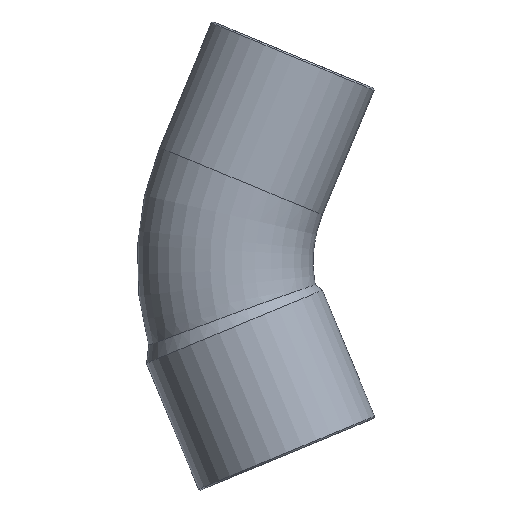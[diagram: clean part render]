
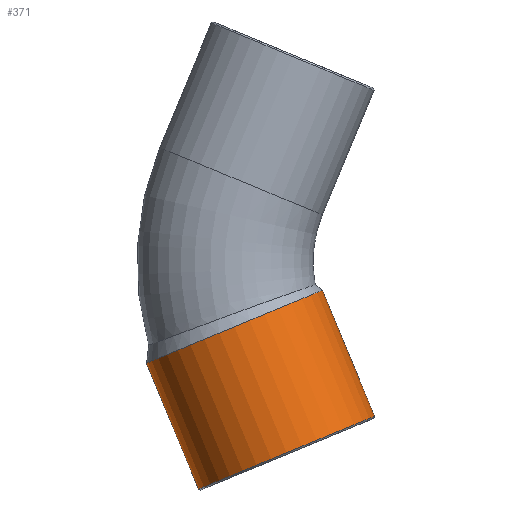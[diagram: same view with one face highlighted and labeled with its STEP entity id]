
A CAD part, front view. The second image highlights one B-rep face of the part: STEP entity #371.
In plain terms, the highlighted cylindrical face has radius 11.9 mm (diameter 23.8 mm), a partial arc.
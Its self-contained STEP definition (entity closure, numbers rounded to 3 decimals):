
#178=CARTESIAN_POINT('',(-31.782,0.,-12.646));
#179=VERTEX_POINT('',#178);
#186=CARTESIAN_POINT('',(-9.794,0.,-3.538));
#187=VERTEX_POINT('',#186);
#188=CARTESIAN_POINT('',(-20.788,0.,-8.092));
#189=DIRECTION('',(-0.383,0.,0.924));
#190=DIRECTION('',(0.924,0.0,0.383));
#191=AXIS2_PLACEMENT_3D('',#188,#189,#190);
#192=CIRCLE('',#191,11.9);
#193=EDGE_CURVE('',#179,#187,#192,.T.);
#340=CARTESIAN_POINT('',(-20.696,0.,-8.315));
#341=DIRECTION('',(0.383,0.,-0.924));
#342=DIRECTION('',(0.924,0.0,0.383));
#343=AXIS2_PLACEMENT_3D('',#340,#341,#342);
#344=CYLINDRICAL_SURFACE('',#343,11.9);
#345=CARTESIAN_POINT('',(-3.273,0.,-19.282));
#346=VERTEX_POINT('',#345);
#347=CARTESIAN_POINT('',(-9.794,0.,-3.538));
#348=DIRECTION('',(0.383,0.,-0.924));
#349=VECTOR('',#348,17.041);
#350=LINE('',#347,#349);
#351=EDGE_CURVE('',#187,#346,#350,.T.);
#352=ORIENTED_EDGE('',*,*,#351,.F.);
#353=ORIENTED_EDGE('',*,*,#193,.F.);
#354=CARTESIAN_POINT('',(-25.261,0.,-28.39));
#355=VERTEX_POINT('',#354);
#356=CARTESIAN_POINT('',(-25.261,0.,-28.39));
#357=DIRECTION('',(-0.383,0.,0.924));
#358=VECTOR('',#357,17.041);
#359=LINE('',#356,#358);
#360=EDGE_CURVE('',#355,#179,#359,.T.);
#361=ORIENTED_EDGE('',*,*,#360,.F.);
#362=CARTESIAN_POINT('',(-14.267,0.,-23.836));
#363=DIRECTION('',(0.383,0.,-0.924));
#364=DIRECTION('',(0.924,0.0,0.383));
#365=AXIS2_PLACEMENT_3D('',#362,#363,#364);
#366=CIRCLE('',#365,11.9);
#367=EDGE_CURVE('',#346,#355,#366,.T.);
#368=ORIENTED_EDGE('',*,*,#367,.F.);
#369=EDGE_LOOP('',(#352,#353,#361,#368));
#370=FACE_OUTER_BOUND('',#369,.T.);
#371=ADVANCED_FACE('',(#370),#344,.T.);
